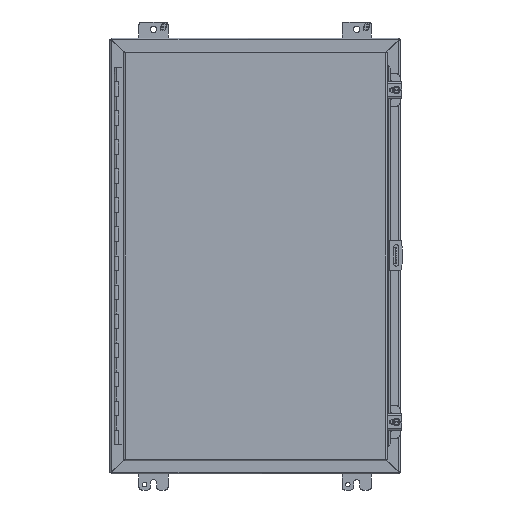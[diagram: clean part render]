
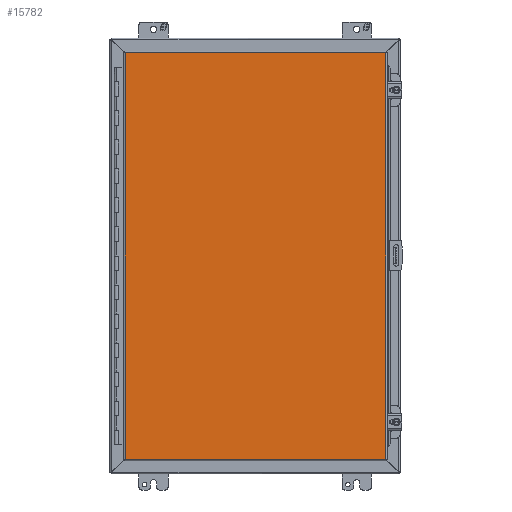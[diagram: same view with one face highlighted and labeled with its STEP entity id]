
A CAD part, front view. The second image highlights one B-rep face of the part: STEP entity #15782.
In plain terms, the highlighted planar face has unit normal (0, -1, 0).
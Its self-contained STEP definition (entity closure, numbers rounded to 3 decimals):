
#1382=LINE('',#23753,#2915);
#1383=LINE('',#23756,#2916);
#1384=LINE('',#23758,#2917);
#1385=LINE('',#23760,#2918);
#2915=VECTOR('',#19403,1000.);
#2916=VECTOR('',#19404,1000.);
#2917=VECTOR('',#19405,1000.);
#2918=VECTOR('',#19406,1000.);
#5930=ORIENTED_EDGE('',*,*,#9614,.T.);
#5931=ORIENTED_EDGE('',*,*,#9615,.T.);
#5932=ORIENTED_EDGE('',*,*,#9616,.T.);
#5933=ORIENTED_EDGE('',*,*,#9617,.T.);
#9614=EDGE_CURVE('',#11596,#11597,#1382,.T.);
#9615=EDGE_CURVE('',#11597,#11598,#1383,.T.);
#9616=EDGE_CURVE('',#11598,#11599,#1384,.T.);
#9617=EDGE_CURVE('',#11599,#11596,#1385,.T.);
#11596=VERTEX_POINT('',#23754);
#11597=VERTEX_POINT('',#23755);
#11598=VERTEX_POINT('',#23757);
#11599=VERTEX_POINT('',#23759);
#13250=EDGE_LOOP('',(#5930,#5931,#5932,#5933));
#14243=FACE_BOUND('',#13250,.T.);
#15105=PLANE('',#16984);
#15782=ADVANCED_FACE('',(#14243),#15105,.T.);
#16984=AXIS2_PLACEMENT_3D('',#23752,#19401,#19402);
#19401=DIRECTION('',(0.,-1.,0.));
#19402=DIRECTION('',(0.,0.,-1.));
#19403=DIRECTION('',(0.,0.,-1.));
#19404=DIRECTION('',(1.,0.,0.));
#19405=DIRECTION('',(0.,0.,1.));
#19406=DIRECTION('',(-1.,0.,0.));
#23752=CARTESIAN_POINT('',(-228.244,0.,-355.46));
#23753=CARTESIAN_POINT('',(-228.244,0.,355.46));
#23754=CARTESIAN_POINT('',(-228.244,0.,355.46));
#23755=CARTESIAN_POINT('',(-228.244,0.,-355.46));
#23756=CARTESIAN_POINT('',(-228.244,0.,-355.46));
#23757=CARTESIAN_POINT('',(228.244,0.,-355.46));
#23758=CARTESIAN_POINT('',(228.244,0.,-355.46));
#23759=CARTESIAN_POINT('',(228.244,0.,355.46));
#23760=CARTESIAN_POINT('',(228.244,0.,355.46));
